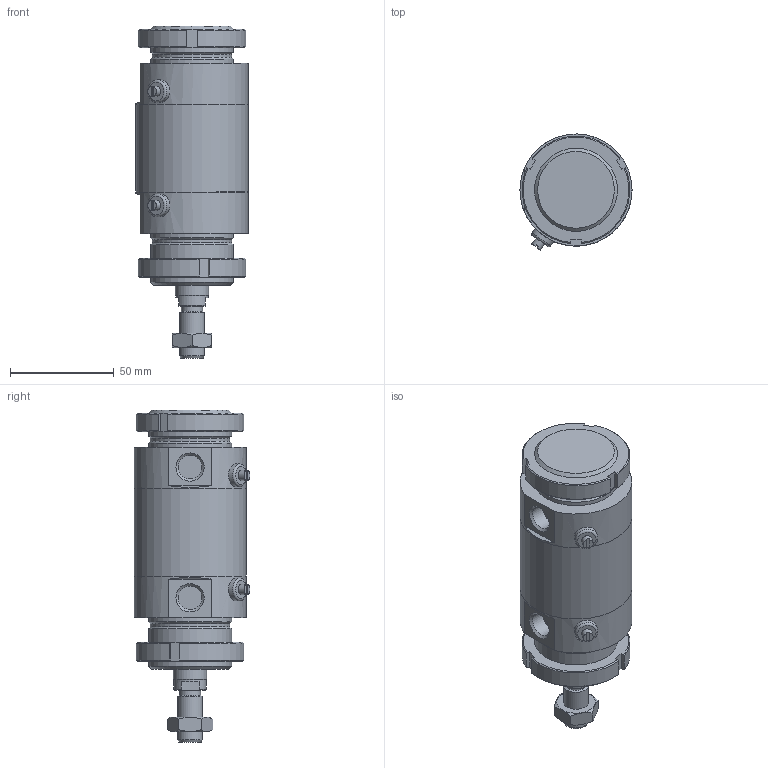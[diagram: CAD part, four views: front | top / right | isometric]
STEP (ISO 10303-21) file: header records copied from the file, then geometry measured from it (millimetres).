
FILE_DESCRIPTION(/* description */ (''),/* implementation_level */ '2;1');
FILE_NAME(/* name */ 'I:\Area Tecnica\Documenti\A-Manieri\_Inventor\12X\12X#C_###_####_#_#\12XBC_050_0000_#_#.stp',/* time_stamp */ '2015-04-28T15:43:23+02:00',/* author */ ('maniean1'),/* organization */ ('Pneumax S.p.A.'),/* preprocessor_version */ 'ST-DEVELOPER v15.2',/* originating_system */ 'Autodesk Inventor 2014',/* authorisation */ '');
FILE_SCHEMA (('AUTOMOTIVE_DESIGN { 1 0 10303 214 3 1 1 }'));
Length unit declared in the file: millimetre
Products named in the file (7): C1250_619-0000; 12X50_606; S12X50_0000; 12X_50_11; 12X50_621; G12X_050_05; 12XBC_050_0000_#_#
Bounding box: 54 x 55.88 x 160 mm (x, y, z)
Volume: 262132.6 mm3; surface area: 62023.7 mm2
Topology: 7 solids, 7 shells, 124 faces, 282 edges, 182 vertices
Faces by surface type: plane 64, cylinder 31, cone 27, torus 2
Full cylindrical faces by diameter (mm): 5 x2, 10.2 x1, 11 x2, 11.4 x2, 12 x2, 14 x1, 15.6 x1, 16 x1, 38.2 x2, 40 x6, 50 x2, 54 x3
Entity records: 2755 total; most frequent: CARTESIAN_POINT 553, DIRECTION 462, ORIENTED_EDGE 356, AXIS2_PLACEMENT_3D 197, EDGE_CURVE 178, EDGE_LOOP 160, VERTEX_POINT 136, ADVANCED_FACE 103
